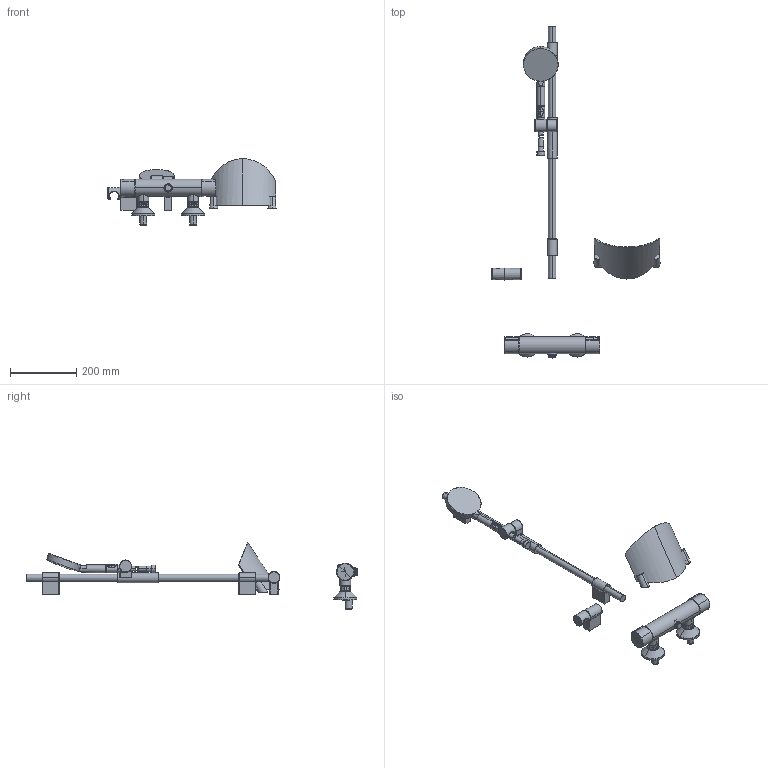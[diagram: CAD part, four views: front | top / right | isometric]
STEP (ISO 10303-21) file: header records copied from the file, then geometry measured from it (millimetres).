
FILE_DESCRIPTION (( 'STEP AP203' ), '1' );
FILE_NAME ('2874U.STEP', '2018-07-05T10:43:01', ( '' ), ( '' ), 'SwSTEP 2.0', 'SolidWorks 2016', '' );
FILE_SCHEMA (( 'CONFIG_CONTROL_DESIGN' ));
Length unit declared in the file: millimetre
Products named in the file (1): 2874U
Bounding box: 506 x 999.55 x 199.45 mm (x, y, z)
Volume: 1876858.5 mm3; surface area: 349030.6 mm2
Topology: 25 solids, 25 shells, 800 faces, 1829 edges, 1092 vertices
Faces by surface type: cylinder 219, plane 187, bspline 164, cone 111, torus 105, sphere 14
Entity records: 34131 total; most frequent: CARTESIAN_POINT 17468, ORIENTED_EDGE 3626, DIRECTION 3277, EDGE_CURVE 1813, AXIS2_PLACEMENT_3D 1387, VERTEX_POINT 1092, EDGE_LOOP 833, FACE_OUTER_BOUND 800
